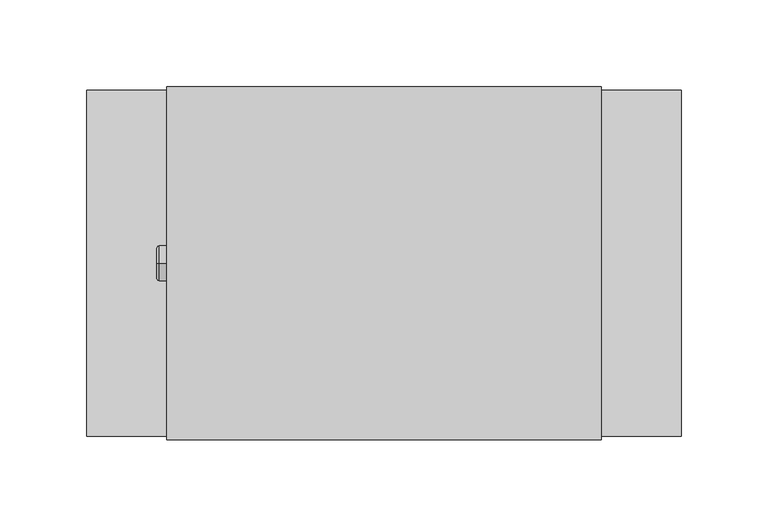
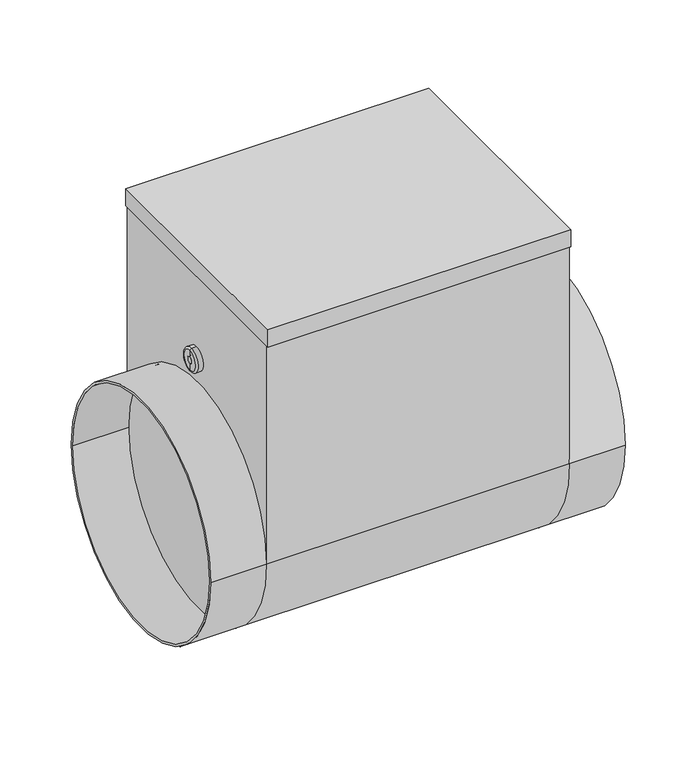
"""IFC4 building model written with IfcOpenShell, lengths in millimetres: proxy geometry, СВ_ВоздухонагревательЭлектрический_КанальныйКруглый_DN100-315_SKH-E : SKH-E-200/6."""

from ifc_helpers import new_model, si_unit, point, frame, origin, place, context, project, spatial, polyline, circle_curve, ellipse_curve, trimmed, outline, extrude, source, transform, mapped, element, save
from ifc_brep_helpers import plane_surface, cylinder_surface, revolved_surface, advanced_brep


def mechanical_equipment_b70cd4b4(model_context):
    return source(origin(), model_context, "Body", "SolidModel", [
        extrude(outline(polyline([(125.0, -101.5), (-125.0, -101.5), (-125.0, 101.5), (125.0, 101.5), (125.0, -101.5)])), frame((0.0, 0.0, 190.5), z_axis=(0.0, 0.0, 1.0), x_axis=(1.0, 0.0, 0.0)), (0.0, 0.0, 1.0), 15.0),
        advanced_brep(
        [(-171.0, -99.5, 0.0), (-171.0, 99.5, 0.0), (-171.0, -97.5, 0.0), (-171.0, 97.5, 0.0), (-125.0, 97.5, 0.0), (-125.0, -97.5, 0.0), (-125.0, 99.5, 0.0), (-125.0, -99.5, 0.0), (125.0, -97.5, 0.0), (125.0, 97.5, 0.0), (125.0, -99.5, 190.5), (125.0, -99.5, 0.0), (125.0, 99.5, 0.0), (125.0, 99.5, 190.5), (-125.0, -99.5, 190.5), (-125.0, 99.5, 190.5), (171.0, -99.5, 0.0), (171.0, 99.5, 0.0), (171.0, -97.5, 0.0), (171.0, 97.5, 0.0)],
        [
            (0, 1, circle_curve(frame((-171.0, 0.0, 0.0), z_axis=(-1.0, 0.0, 0.0), x_axis=(0.0, 1.0, 0.0)), 99.5)),
            (1, 0, circle_curve(frame((-171.0, 0.0, 0.0), z_axis=(-1.0, 0.0, 0.0), x_axis=(0.0, 1.0, 0.0)), 99.5)),
            (2, 3, circle_curve(frame((-171.0, 0.0, 0.0), z_axis=(1.0, 0.0, 0.0), x_axis=(0.0, 1.0, 0.0)), 97.5)),
            (3, 2, circle_curve(frame((-171.0, 0.0, 0.0), z_axis=(1.0, 0.0, 0.0), x_axis=(0.0, 1.0, 0.0)), 97.5)),
            (3, 4),
            (4, 5, circle_curve(frame((-125.0, 0.0, 0.0), z_axis=(1.0, 0.0, 0.0), x_axis=(0.0, 1.0, 0.0)), 97.5)),
            (5, 2),
            (5, 4, circle_curve(frame((-125.0, 0.0, 0.0), z_axis=(1.0, 0.0, 0.0), x_axis=(0.0, 1.0, 0.0)), 97.5)),
            (1, 6),
            (6, 7, circle_curve(frame((-125.0, 0.0, 0.0), z_axis=(-1.0, 0.0, 0.0), x_axis=(0.0, 1.0, 0.0)), 99.5)),
            (7, 0),
            (7, 6, circle_curve(frame((-125.0, 0.0, 0.0), z_axis=(-1.0, 0.0, 0.0), x_axis=(0.0, 1.0, 0.0)), 99.5)),
            (8, 9, circle_curve(frame((125.0, 0.0, 0.0), z_axis=(1.0, 0.0, 0.0), x_axis=(0.0, 1.0, 0.0)), 97.5)),
            (9, 8, circle_curve(frame((125.0, 0.0, 0.0), z_axis=(1.0, 0.0, 0.0), x_axis=(0.0, 1.0, 0.0)), 97.5)),
            (10, 11),
            (11, 12, circle_curve(frame((125.0, 0.0, 0.0), z_axis=(-1.0, 0.0, 0.0), x_axis=(0.0, 1.0, 0.0)), 99.5)),
            (12, 13),
            (13, 10),
            (7, 14),
            (14, 15),
            (15, 6),
            (6, 12),
            (12, 11, circle_curve(frame((125.0, 0.0, 0.0), z_axis=(-1.0, 0.0, 0.0), x_axis=(0.0, 1.0, 0.0)), 99.5)),
            (11, 7),
            (16, 17, circle_curve(frame((171.0, 0.0, 0.0), z_axis=(1.0, 0.0, 0.0), x_axis=(0.0, 1.0, 0.0)), 99.5)),
            (17, 16, circle_curve(frame((171.0, 0.0, 0.0), z_axis=(1.0, 0.0, 0.0), x_axis=(0.0, 1.0, 0.0)), 99.5)),
            (18, 19, circle_curve(frame((171.0, 0.0, 0.0), z_axis=(-1.0, 0.0, 0.0), x_axis=(0.0, 1.0, 0.0)), 97.5)),
            (19, 18, circle_curve(frame((171.0, 0.0, 0.0), z_axis=(-1.0, 0.0, 0.0), x_axis=(0.0, 1.0, 0.0)), 97.5)),
            (18, 8),
            (9, 19),
            (16, 11),
            (12, 17),
            (10, 14),
            (15, 13),
        ],
        [
            plane_surface(frame((-171.0, 97.5, 0.0), z_axis=(-1.0, 0.0, 0.0), x_axis=(0.0, 0.0, 1.0))),
            revolved_surface(polyline([(-171.0, 97.5, 0.0), (-125.0, 97.5, 0.0)]), (-171.0, 0.0, 0.0), (-1.0, 0.0, 0.0)),
            cylinder_surface(frame((0.0, 0.0, 0.0), z_axis=(1.0, 0.0, 0.0), x_axis=(0.0, 1.0, 0.0)), 99.5),
            plane_surface(frame((125.0, 99.5, 0.0), z_axis=(1.0, 0.0, 0.0), x_axis=(0.0, -1.0, 0.0))),
            plane_surface(frame((-125.0, 99.5, 0.0), z_axis=(-1.0, 0.0, 0.0), x_axis=(0.0, 1.0, 0.0))),
            cylinder_surface(frame((-125.0, 0.0, 0.0), z_axis=(1.0, 0.0, 0.0), x_axis=(0.0, 1.0, 0.0)), 99.5),
            plane_surface(frame((171.0, 97.5, 0.0), z_axis=(1.0, 0.0, 0.0), x_axis=(0.0, 0.0, -1.0))),
            revolved_surface(polyline([(125.0, 97.5, 0.0), (171.0, 97.5, 0.0)]), (125.0, 0.0, 0.0), (-1.0, 0.0, 0.0)),
            plane_surface(frame((-125.0, -99.5, 190.5), z_axis=(0.0, -1.0, 0.0), x_axis=(-1.0, 0.0, 0.0))),
            plane_surface(frame((-125.0, 99.5, 190.5), z_axis=(0.0, 1.0, 0.0), x_axis=(1.0, 0.0, 0.0))),
            plane_surface(frame((125.0, -99.5, 190.5), z_axis=(0.0, 0.0, 1.0), x_axis=(0.0, 1.0, 0.0))),
        ],
        [
            (0, [[1, 2], [3, 4]]),
            (1, [[-4, 5, 6, 7]]),
            (1, [[-3, -7, 8, -5]]),
            (2, [[-2, 9, 10, 11]]),
            (2, [[-1, -11, 12, -9]]),
            (3, [[13, 14]]),
            (3, [[15, 16, 17, 18]]),
            (4, [[-8, -6]]),
            (4, [[19, 20, 21, -12]]),
            (5, [[-10, 22, 23, 24]]),
            (6, [[25, 26], [27, 28]]),
            (7, [[-27, 29, -14, 30]]),
            (7, [[-28, -30, -13, -29]]),
            (2, [[-25, 31, -23, 32]]),
            (2, [[-26, -32, -16, -31]]),
            (8, [[33, -19, -24, -15]]),
            (9, [[-17, -22, -21, 34]]),
            (10, [[-33, -18, -34, -20]]),
        ],
    ),
        advanced_brep(
        [(-129.2840134, 0.0, 109.5), (-129.2840134, 0.0, 129.5), (-125.0, 0.0, 129.5), (-125.0, 0.0, 109.5), (-130.7459771, 0.0, 110.9619637), (-130.7459771, 0.0, 128.0380363), (-130.7459771, 0.0, 116.3948071), (-130.7459771, 0.0, 122.6051929), (-128.4138357, 0.0, 116.3948071), (-128.4138357, 0.0, 122.6051929), (-128.4138357, 0.0, 119.5), (-125.0, 0.0, 119.5)],
        [
            (0, 1, circle_curve(frame((-129.2840134, 0.0, 119.5), z_axis=(1.0, 0.0, 0.0), x_axis=(0.0, 0.0, 1.0)), 10.0)),
            (1, 2),
            (2, 3, circle_curve(frame((-125.0, 0.0, 119.5), z_axis=(-1.0, 0.0, 0.0), x_axis=(0.0, 0.0, 1.0)), 10.0)),
            (3, 0),
            (1, 0, circle_curve(frame((-129.2840134, 0.0, 119.5), z_axis=(1.0, 0.0, 0.0), x_axis=(0.0, 0.0, 1.0)), 10.0)),
            (3, 2, circle_curve(frame((-125.0, 0.0, 119.5), z_axis=(-1.0, 0.0, 0.0), x_axis=(0.0, 0.0, 1.0)), 10.0)),
            (4, 5, circle_curve(frame((-130.7459771, 0.0, 119.5), z_axis=(1.0, 0.0, 0.0), x_axis=(0.0, 0.0, 1.0)), 8.5380363)),
            (5, 1, circle_curve(frame((-129.2840134, 0.0, 128.0380363), z_axis=(0.0, 1.0, 0.0), x_axis=(1.0, 0.0, 0.0)), 1.4619637)),
            (0, 4, circle_curve(frame((-129.2840134, 0.0, 110.9619637), z_axis=(0.0, 1.0, 0.0), x_axis=(1.0, 0.0, 0.0)), 1.4619637)),
            (5, 4, circle_curve(frame((-130.7459771, 0.0, 119.5), z_axis=(1.0, 0.0, 0.0), x_axis=(0.0, 0.0, 1.0)), 8.5380363)),
            (6, 7, circle_curve(frame((-130.7459771, 0.0, 119.5), z_axis=(1.0, 0.0, 0.0), x_axis=(0.0, 0.0, 1.0)), 3.1051929)),
            (7, 5),
            (4, 6),
            (7, 6, circle_curve(frame((-130.7459771, 0.0, 119.5), z_axis=(1.0, 0.0, 0.0), x_axis=(0.0, 0.0, 1.0)), 3.1051929)),
            (8, 9, circle_curve(frame((-128.4138357, 0.0, 119.5), z_axis=(1.0, 0.0, 0.0), x_axis=(0.0, 0.0, 1.0)), 3.1051929)),
            (9, 7),
            (6, 8),
            (9, 8, circle_curve(frame((-128.4138357, 0.0, 119.5), z_axis=(1.0, 0.0, 0.0), x_axis=(0.0, 0.0, 1.0)), 3.1051929)),
            (10, 9),
            (8, 10),
            (2, 11),
            (11, 3),
        ],
        [
            cylinder_surface(frame((-160.6635229, 0.0, 119.5), z_axis=(-1.0, 0.0, 0.0), x_axis=(0.0, 0.0, 1.0)), 10.0),
            revolved_surface(trimmed(ellipse_curve(frame((-129.2840134, 0.0, 128.0380363), z_axis=(0.0, -1.0, 0.0), x_axis=(1.0, 0.0, 0.0)), 1.4619637, 1.4619637), [point((-129.2840134, 0.0, 129.5))], [point((-130.7459771, 0.0, 128.0380363))], True, "CARTESIAN"), (-160.6635229, 0.0, 119.5), (-1.0, 0.0, 0.0)),
            plane_surface(frame((-130.7459771, 0.0, 119.5), z_axis=(-1.0, 0.0, 0.0), x_axis=(0.0, 0.0, 1.0))),
            revolved_surface(polyline([(-130.7459771, 0.0, 122.6051929), (-128.4138357, 0.0, 122.6051929)]), (-160.6635229, 0.0, 119.5), (-1.0, 0.0, 0.0)),
            plane_surface(frame((-128.4138357, 0.0, 119.5), z_axis=(-1.0, 0.0, 0.0), x_axis=(0.0, 0.0, 1.0))),
            plane_surface(frame((-125.0, 0.0, 119.5), z_axis=(1.0, 0.0, 0.0), x_axis=(0.0, 0.0, 1.0))),
        ],
        [
            (0, [[1, 2, 3, 4]]),
            (0, [[5, -4, 6, -2]]),
            (1, [[7, 8, -1, 9]]),
            (1, [[10, -9, -5, -8]]),
            (2, [[11, 12, -7, 13]]),
            (2, [[14, -13, -10, -12]]),
            (3, [[15, 16, -11, 17]]),
            (3, [[18, -17, -14, -16]]),
            (4, [[19, -15, 20]]),
            (4, [[-20, -18, -19]]),
            (5, [[-3, 21, 22]]),
            (5, [[-6, -22, -21]]),
        ],
    ),
    ])


if __name__ == "__main__":
    model = new_model("IFC4")
    model_context = context("Model", 3, world=origin())
    ifc_project = project(units=[si_unit("LENGTHUNIT", "METRE", prefix="MILLI")], contexts=[model_context])
    site = spatial("IfcSite", under=ifc_project)
    building = spatial("IfcBuilding", under=site)
    placement = place(None, origin())
    mechanical_equipment_shape = mechanical_equipment_b70cd4b4(model_context)
    element("IfcBuildingElementProxy", 1, Name="СВ_ВоздухонагревательЭлектрический_КанальныйКруглый_DN100-315_SKH-E : SKH-E-200/6", ObjectType="СВ_ВоздухонагревательЭлектрический_КанальныйКруглый_DN100-315_SKH-E : SKH-E-200/6", at=placement, inside=building, context=model_context, shape_type="MappedRepresentation", body=[
        mapped(mechanical_equipment_shape, transform((0.0, 0.0, 0.0), x_axis=(1.0, 0.0, 0.0), y_axis=(0.0, 1.0, 0.0), z_axis=(0.0, 0.0, 1.0))),
    ])
    save(model, "model.ifc")
